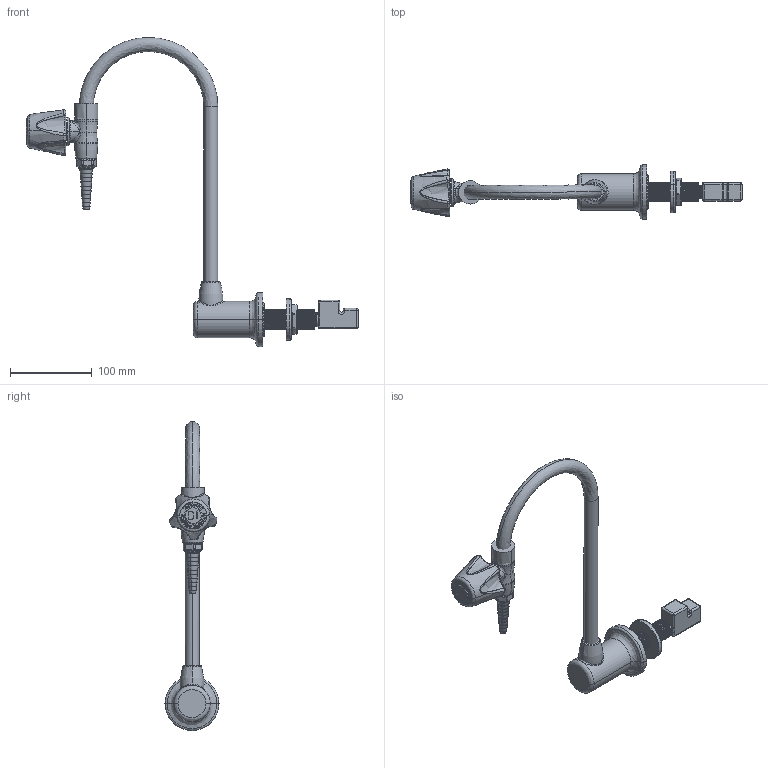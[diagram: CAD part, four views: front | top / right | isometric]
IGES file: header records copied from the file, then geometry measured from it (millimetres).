
Start section:  PTC IGES file: 831-pvdf_REV071323.igs
Global section: file name: 831-pvdf_REV071323.igs; native system: Creo Parametric by PTC Inc.; preprocessor: 2021184; author: dmisv; organization: Unknown; date: 20230713.075657; units: inch
Bounding box: 405.93 x 66.04 x 377.93 mm (x, y, z)
Surface area: 94361.4 mm2 (no closed solid volume)
Topology: 0 solids, 0 shells, 451 faces, 3555 edges, 4779 vertices
Faces by surface type: revolution 262, bspline 165, extrusion 24
